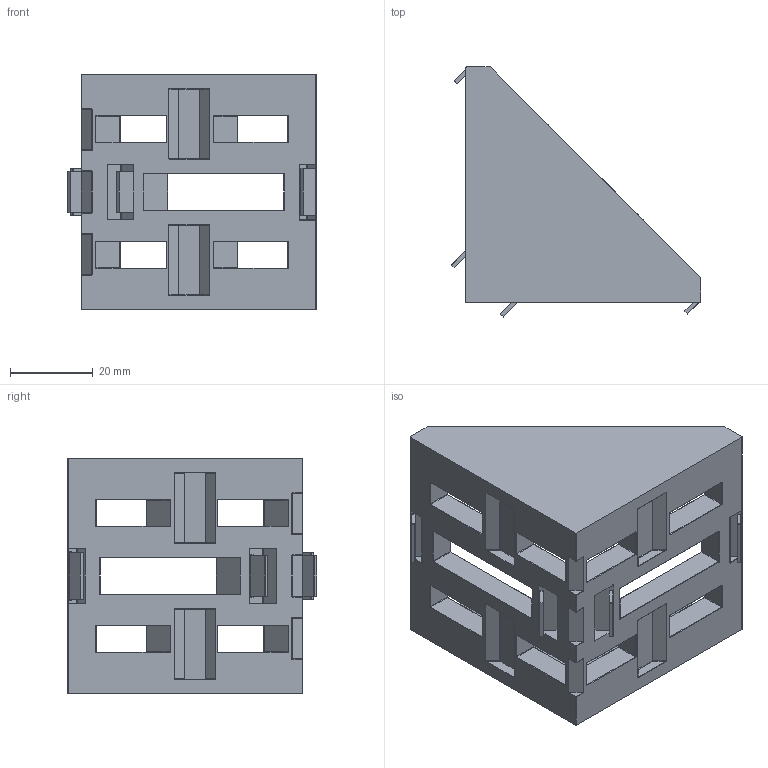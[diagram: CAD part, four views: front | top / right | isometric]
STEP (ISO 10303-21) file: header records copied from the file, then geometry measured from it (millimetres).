
FILE_DESCRIPTION (( 'STEP AP203' ), '1' );
FILE_NAME ('gusset 60 x 60 mm.STEP', '2012-05-29T19:28:46', ( '' ), ( '' ), 'SwSTEP 2.0', 'SolidWorks 2010', '' );
FILE_SCHEMA (( 'CONFIG_CONTROL_DESIGN' ));
Length unit declared in the file: millimetre
Products named in the file (1): gusset 60 x 60 mm
Bounding box: 60.42 x 60.49 x 57 mm (x, y, z)
Volume: 39153.5 mm3; surface area: 20569.5 mm2
Topology: 1 solids, 1 shells, 544 faces, 1288 edges, 742 vertices
Faces by surface type: cylinder 265, plane 137, bspline 77, torus 44, sphere 21
Entity records: 19169 total; most frequent: CARTESIAN_POINT 7338, ORIENTED_EDGE 2540, DIRECTION 2404, EDGE_CURVE 1270, AXIS2_PLACEMENT_3D 889, VERTEX_POINT 738, VECTOR 626, LINE 626
